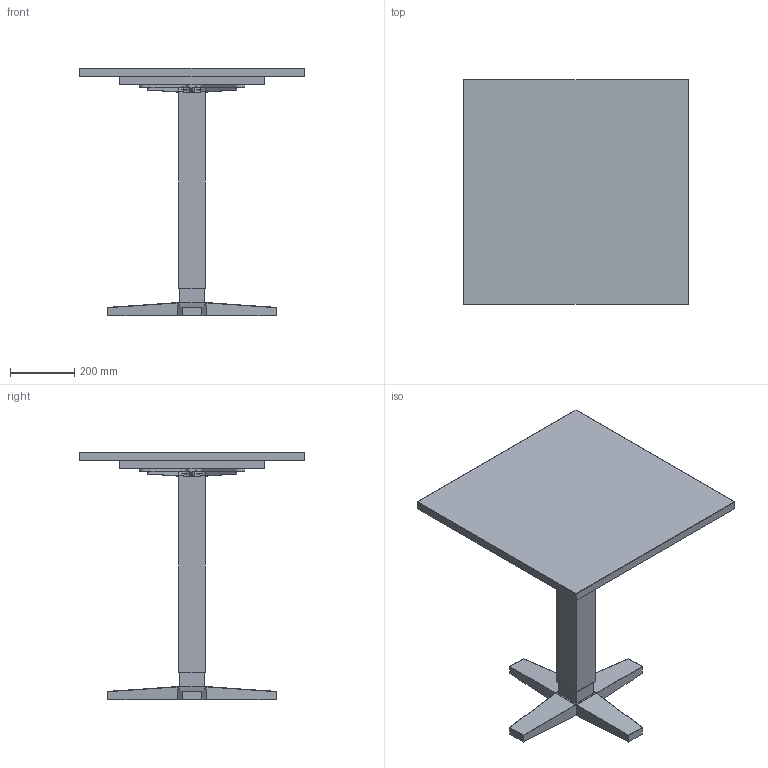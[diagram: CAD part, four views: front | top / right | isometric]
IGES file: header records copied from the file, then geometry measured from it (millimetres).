
Start section: SolidWorks IGES file using analytic representation for surfaces
Global section: file name: C:\Users\Adao\Documents\Trab Adao\Desenho técnico PRODUÇÃO\J M S\MESAS\PICO\PICO (3D)\MESA PICO MM525 700x700.IGS; native system: SolidWorks 2012; preprocessor: SolidWorks 2012; author: Adao; date: 121219.183100; units: millimetre
Bounding box: 700 x 700 x 771.5 mm (x, y, z)
Surface area: 3242969.9 mm2 (no closed solid volume)
Topology: 0 solids, 0 shells, 288 faces, 3357 edges, 3357 vertices
Faces by surface type: bspline 172, revolution 116
